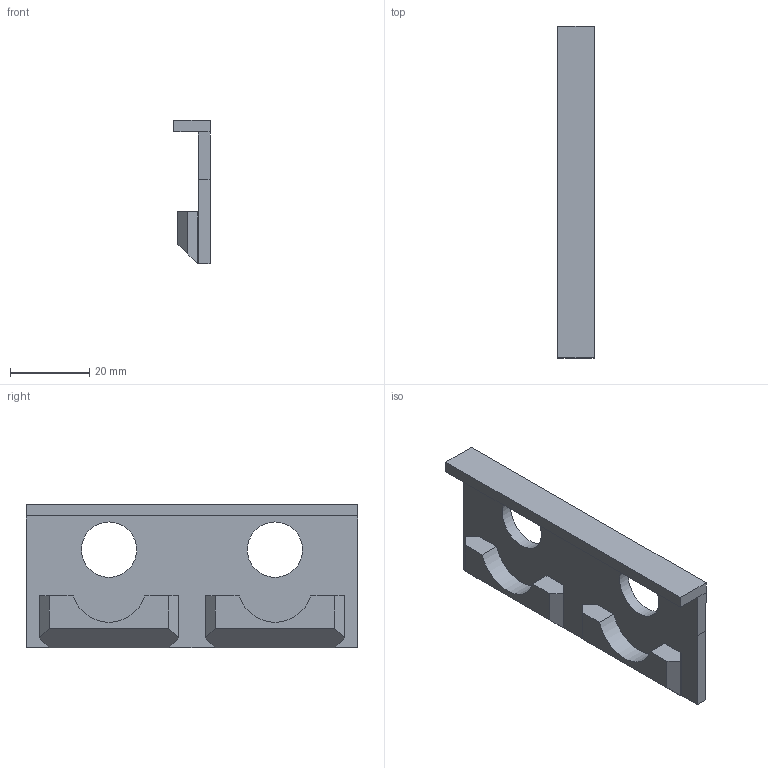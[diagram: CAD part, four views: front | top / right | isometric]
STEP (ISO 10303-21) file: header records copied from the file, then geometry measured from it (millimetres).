
FILE_DESCRIPTION(/* description */ ('','CAx-IF Rec.Pracs.---Representation and Presentation of Product Manufacturing Information (PMI)---4.0---2014-10-13'),/* implementation_level */ '2;1');
FILE_NAME(/* name */ 'GOEWS GRID Alignment Tool.step',/* time_stamp */ '2025-01-03T10:26:14-05:00',/* author */ (''),/* organization */ (''),/* preprocessor_version */ 'ST-DEVELOPER v20',/* originating_system */ 'Autodesk Translation Framework v13.20.0.188',/* authorisation */ '');
FILE_SCHEMA (('AP242_MANAGED_MODEL_BASED_3D_ENGINEERING_MIM_LF { 1 0 10303 442 1 1 4 }'));
Length unit declared in the file: millimetre
Products named in the file (1): GOEWS GRID Alignment Tool
Bounding box: 9.15 x 84 x 36.37 mm (x, y, z)
Volume: 12450.3 mm3; surface area: 8403.9 mm2
Topology: 1 solids, 1 shells, 38 faces, 96 edges, 62 vertices
Faces by surface type: plane 34, cylinder 4
Full cylindrical faces by diameter (mm): 14 x2
Entity records: 1161 total; most frequent: CARTESIAN_POINT 197, ORIENTED_EDGE 192, DIRECTION 182, EDGE_CURVE 96, LINE 88, VECTOR 88, VERTEX_POINT 62, AXIS2_PLACEMENT_3D 47
